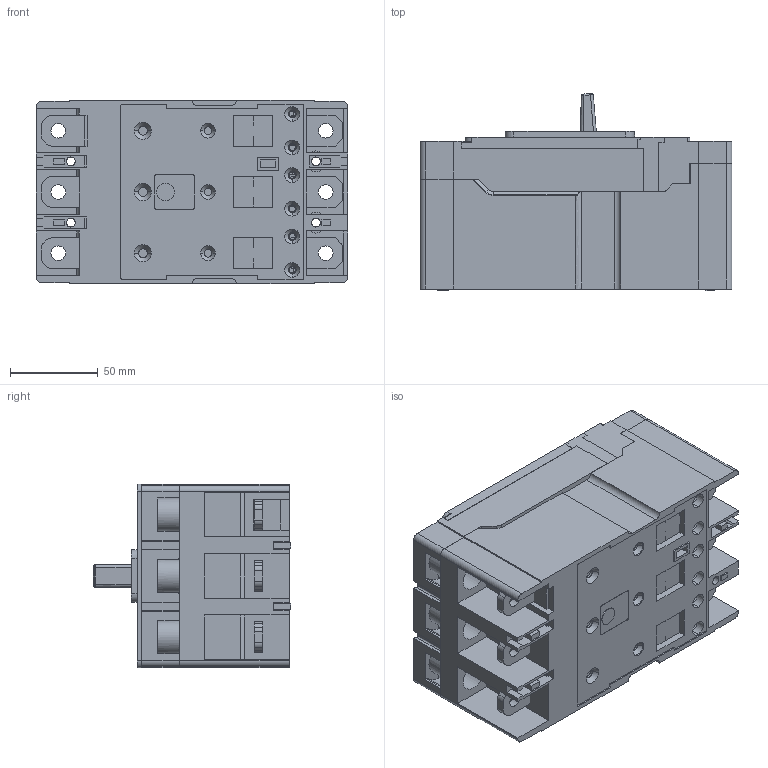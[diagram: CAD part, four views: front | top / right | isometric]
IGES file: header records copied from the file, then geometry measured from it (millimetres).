
Start section:  PTC IGES file: /data/CUSTOMERS/EATON/Eaton-Penn/translation-050503/iges /jg_3p_shrinkwrap.igs
Global section: file name: /data/CUSTOMERS/EATON/Eaton-Penn/translation-050503/iges/jg_3p_shrinkwrap.igs; native system: Pro/ENGINEER by Parametric Technology Corporation; preprocessor: 2001150; author: hopkin_m; organization: Unknown; date: 030507.104359; units: inch
Bounding box: 177.8 x 112.38 x 104.79 mm (x, y, z)
Surface area: 227402.9 mm2 (no closed solid volume)
Topology: 0 solids, 0 shells, 1078 faces, 6510 edges, 6510 vertices
Faces by surface type: bspline 655, revolution 423
